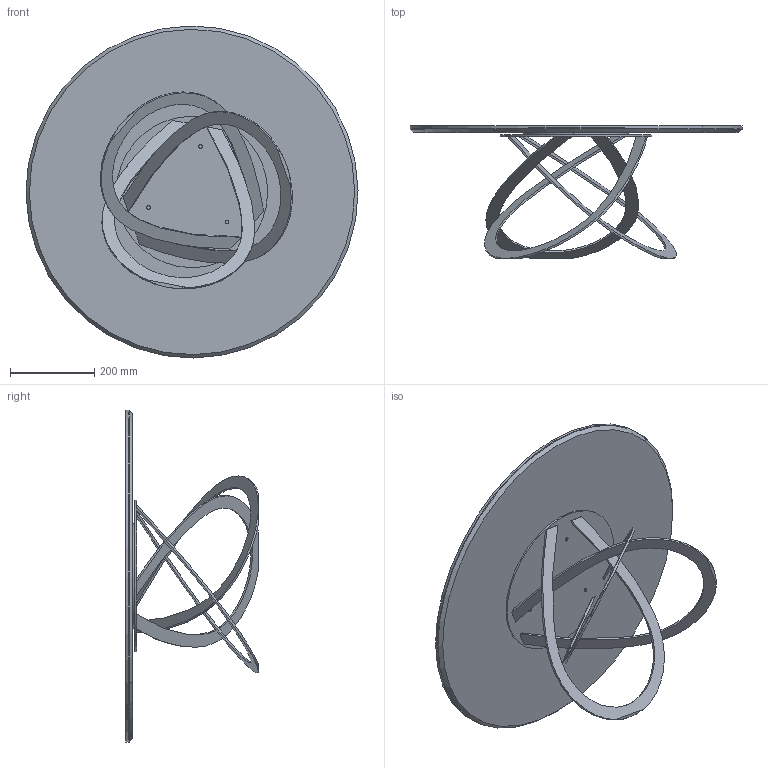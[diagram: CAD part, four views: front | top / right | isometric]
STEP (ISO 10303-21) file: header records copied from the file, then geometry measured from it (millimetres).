
FILE_DESCRIPTION (( 'STEP AP203' ), '1' );
FILE_NAME ('FL12C_Febe Low_d80xh32_Ceramic.STEP', '2024-08-06T09:00:05', ( '' ), ( '' ), 'SwSTEP 2.0', 'SolidWorks 2022', '' );
FILE_SCHEMA (( 'CONFIG_CONTROL_DESIGN' ));
Length unit declared in the file: millimetre
Products named in the file (7): FET00000032_02-00-FEBE GAMBA PER H.32cm_gamba per febe 60; FL12C_Febe Low_d80xh32_Ceramic; K1XCMXX-00-Piani Rotondi in ceramica_D.790; P0000003-00-STAFFA DI FISSAGGIO DIAMETRO 250_P0000003-250mm normale; FET000000XX-00-FEBE STRUTTURA BASE H.XXcm_FEBE 60; KXXCXX-00-Piani Rotondi in ceramica CON PIASTRA_K12P PIANO CERAMICA D.79cm; FET00000032_01-00-FEBE DISCO METALLO SUPERIORE H.32cm_POS. gambe 380
Assembly tree (8 placements, depth 3):
  FL12C_Febe Low_d80xh32_Ceramic
    KXXCXX-00-Piani Rotondi in ceramica CON PIASTRA_K12P PIANO CERAMICA D.79cm
      K1XCMXX-00-Piani Rotondi in ceramica_D.790
      P0000003-00-STAFFA DI FISSAGGIO DIAMETRO 250_P0000003-250mm normale
    FET000000XX-00-FEBE STRUTTURA BASE H.XXcm_FEBE 60
      FET00000032_02-00-FEBE GAMBA PER H.32cm_gamba per febe 60  x3
      FET00000032_01-00-FEBE DISCO METALLO SUPERIORE H.32cm_POS. gambe 380
Bounding box: 789.98 x 315.55 x 789.98 mm (x, y, z)
Volume: 8996695.5 mm3; surface area: 2548907.6 mm2
Topology: 7 solids, 7 shells, 89 faces, 202 edges, 133 vertices
Faces by surface type: plane 41, cylinder 28, bspline 18, cone 2
Entity records: 3143 total; most frequent: CARTESIAN_POINT 741, DIRECTION 342, ORIENTED_EDGE 324, EDGE_CURVE 162, AXIS2_PLACEMENT_3D 132, VERTEX_POINT 107, EDGE_LOOP 91, LINE 78
